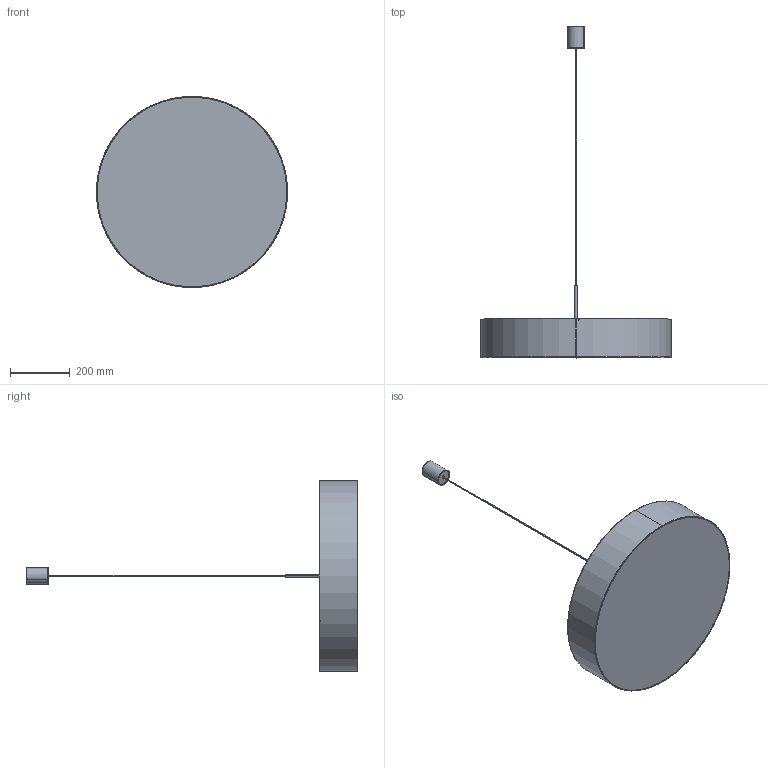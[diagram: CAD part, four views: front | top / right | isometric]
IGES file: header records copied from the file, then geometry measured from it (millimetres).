
Start section: SolidWorks IGES file using analytic representation for surfaces
Global section: file name: Z:\Modele 3D_WWW\_KOLEKCJE_WWW\TURDA\TURDA-8947-8950\TURDA-8947-8950.IGS; native system: SolidWorks 2020; preprocessor: SolidWorks 2020; author: gabriela.tworek; date: 210510.100602; units: millimetre
Bounding box: 640 x 1112.13 x 640 mm (x, y, z)
Surface area: 1080436.9 mm2 (no closed solid volume)
Topology: 0 solids, 0 shells, 405 faces, 6532 edges, 6452 vertices
Faces by surface type: revolution 206, bspline 199
